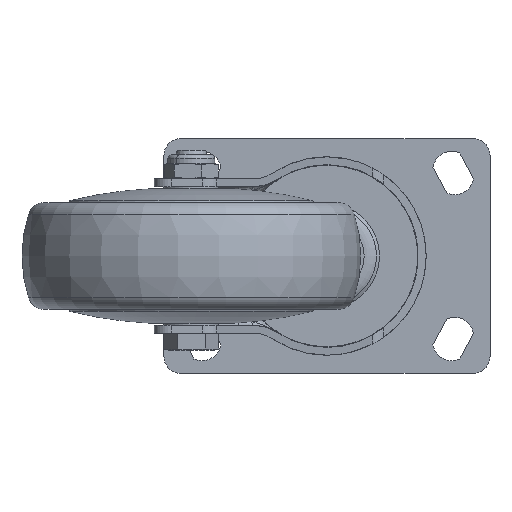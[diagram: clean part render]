
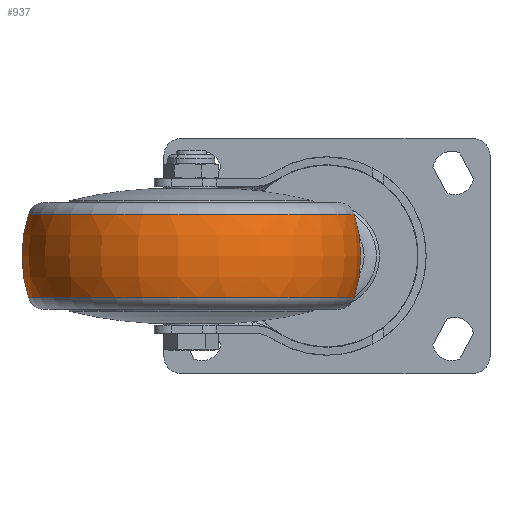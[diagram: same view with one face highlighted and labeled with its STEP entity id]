
A CAD part, front view. The second image highlights one B-rep face of the part: STEP entity #937.
In plain terms, the highlighted toroidal (fillet/blend) face has major radius 9.765 mm and minor radius 40.235 mm.
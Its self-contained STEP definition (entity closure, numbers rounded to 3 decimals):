
#655 = EDGE_CURVE ( 'NONE', #12876, #3722, #2568, .T. ) ;
#886 = CARTESIAN_POINT ( 'NONE',  ( 12.275, 0., 48.082 ) ) ;
#937 = ADVANCED_FACE ( 'NONE', ( #12302 ), #8472, .T. ) ;
#1247 = DIRECTION ( 'NONE',  ( 1., 0., 0. ) ) ;
#1785 = DIRECTION ( 'NONE',  ( 0., 0., 1. ) ) ;
#2568 = CIRCLE ( 'NONE', #7326, 48.082 ) ;
#2902 = ORIENTED_EDGE ( 'NONE', *, *, #8838, .F. ) ;
#2949 = VERTEX_POINT ( 'NONE', #3901 ) ;
#3722 = VERTEX_POINT ( 'NONE', #4376 ) ;
#3768 = CIRCLE ( 'NONE', #11019, 40.235 ) ;
#3780 = CIRCLE ( 'NONE', #7403, 48.082 ) ;
#3901 = CARTESIAN_POINT ( 'NONE',  ( -12.275, 0., -48.082 ) ) ;
#4376 = CARTESIAN_POINT ( 'NONE',  ( 12.275, 0., -48.082 ) ) ;
#4541 = DIRECTION ( 'NONE',  ( 0., -1., 0. ) ) ;
#5072 = CARTESIAN_POINT ( 'NONE',  ( 0., 0., 9.765 ) ) ;
#5389 = CARTESIAN_POINT ( 'NONE',  ( -12.275, 0., 0. ) ) ;
#5800 = DIRECTION ( 'NONE',  ( 1., 0., 0. ) ) ;
#6250 = CARTESIAN_POINT ( 'NONE',  ( -12.275, 0., 48.082 ) ) ;
#6333 = CARTESIAN_POINT ( 'NONE',  ( 12.275, 0., 0. ) ) ;
#6971 = EDGE_CURVE ( 'NONE', #2949, #3722, #13238, .T. ) ;
#7326 = AXIS2_PLACEMENT_3D ( 'NONE', #6333, #11775, #8230 ) ;
#7403 = AXIS2_PLACEMENT_3D ( 'NONE', #5389, #1247, #9698 ) ;
#7715 = CARTESIAN_POINT ( 'NONE',  ( 0., 0., -9.765 ) ) ;
#8230 = DIRECTION ( 'NONE',  ( 0., 0., -1. ) ) ;
#8320 = DIRECTION ( 'NONE',  ( 0., 1., 0. ) ) ;
#8472 = TOROIDAL_SURFACE ( 'NONE', #12768, 9.765, 40.235 ) ;
#8838 = EDGE_CURVE ( 'NONE', #10649, #12876, #3768, .T. ) ;
#8848 = DIRECTION ( 'NONE',  ( 0., 0., -1. ) ) ;
#8969 = DIRECTION ( 'NONE',  ( 0., 0., -1. ) ) ;
#9249 = CARTESIAN_POINT ( 'NONE',  ( 0., 0., 0. ) ) ;
#9264 = EDGE_CURVE ( 'NONE', #10649, #2949, #3780, .T. ) ;
#9521 = EDGE_LOOP ( 'NONE', ( #2902, #9788, #11688, #11900 ) ) ;
#9698 = DIRECTION ( 'NONE',  ( 0., 0., -1. ) ) ;
#9788 = ORIENTED_EDGE ( 'NONE', *, *, #9264, .T. ) ;
#10057 = AXIS2_PLACEMENT_3D ( 'NONE', #7715, #4541, #8848 ) ;
#10649 = VERTEX_POINT ( 'NONE', #6250 ) ;
#11019 = AXIS2_PLACEMENT_3D ( 'NONE', #5072, #8320, #1785 ) ;
#11688 = ORIENTED_EDGE ( 'NONE', *, *, #6971, .T. ) ;
#11775 = DIRECTION ( 'NONE',  ( 1., 0., 0. ) ) ;
#11900 = ORIENTED_EDGE ( 'NONE', *, *, #655, .F. ) ;
#12302 = FACE_OUTER_BOUND ( 'NONE', #9521, .T. ) ;
#12768 = AXIS2_PLACEMENT_3D ( 'NONE', #9249, #5800, #8969 ) ;
#12876 = VERTEX_POINT ( 'NONE', #886 ) ;
#13238 = CIRCLE ( 'NONE', #10057, 40.235 ) ;
